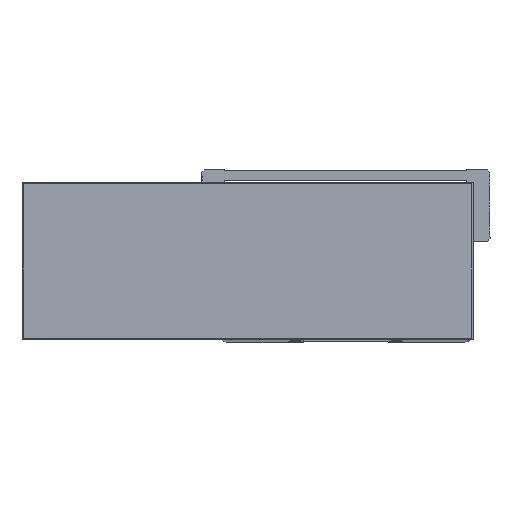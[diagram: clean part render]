
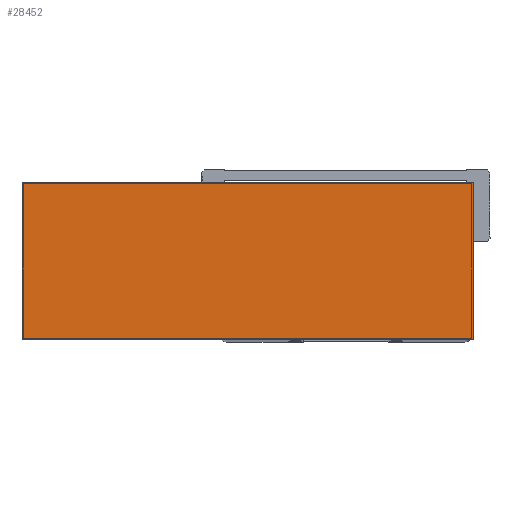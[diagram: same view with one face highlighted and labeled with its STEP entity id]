
A CAD part, top view. The second image highlights one B-rep face of the part: STEP entity #28452.
In plain terms, the highlighted planar face has unit normal (0, 0, 1).
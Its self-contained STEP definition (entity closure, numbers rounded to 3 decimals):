
#1952 = DIRECTION ( 'NONE',  ( 0., -1., 0. ) ) ;
#2237 = EDGE_CURVE ( 'NONE', #13440, #18291, #9259, .T. ) ;
#2614 = CARTESIAN_POINT ( 'NONE',  ( 0., 0., 70. ) ) ;
#3688 = CARTESIAN_POINT ( 'NONE',  ( 0., 0., 70. ) ) ;
#4399 = EDGE_CURVE ( 'NONE', #18291, #17542, #27156, .T. ) ;
#5814 = DIRECTION ( 'NONE',  ( -1., 0., 0. ) ) ;
#7184 = DIRECTION ( 'NONE',  ( -1., 0., 0. ) ) ;
#7653 = CARTESIAN_POINT ( 'NONE',  ( 313., 0., 70. ) ) ;
#9259 = LINE ( 'NONE', #2614, #23818 ) ;
#10826 = EDGE_LOOP ( 'NONE', ( #28093, #31122, #35114, #35614 ) ) ;
#11878 = CARTESIAN_POINT ( 'NONE',  ( 0., 109., 70. ) ) ;
#13440 = VERTEX_POINT ( 'NONE', #13771 ) ;
#13771 = CARTESIAN_POINT ( 'NONE',  ( 0., 109., 70. ) ) ;
#16733 = VECTOR ( 'NONE', #5814, 1000. ) ;
#17542 = VERTEX_POINT ( 'NONE', #21647 ) ;
#18291 = VERTEX_POINT ( 'NONE', #3688 ) ;
#21491 = FACE_OUTER_BOUND ( 'NONE', #10826, .T. ) ;
#21647 = CARTESIAN_POINT ( 'NONE',  ( 313., 0., 70. ) ) ;
#23818 = VECTOR ( 'NONE', #1952, 1000. ) ;
#24056 = LINE ( 'NONE', #11878, #16733 ) ;
#24183 = LINE ( 'NONE', #7653, #32662 ) ;
#25180 = VECTOR ( 'NONE', #37649, 1000. ) ;
#25678 = PLANE ( 'NONE',  #36674 ) ;
#25805 = DIRECTION ( 'NONE',  ( 0., 0., -1. ) ) ;
#26032 = EDGE_CURVE ( 'NONE', #17542, #29567, #24183, .T. ) ;
#27156 = LINE ( 'NONE', #37272, #25180 ) ;
#28093 = ORIENTED_EDGE ( 'NONE', *, *, #2237, .T. ) ;
#28452 = ADVANCED_FACE ( 'NONE', ( #21491 ), #25678, .F. ) ;
#29567 = VERTEX_POINT ( 'NONE', #31645 ) ;
#31122 = ORIENTED_EDGE ( 'NONE', *, *, #4399, .T. ) ;
#31645 = CARTESIAN_POINT ( 'NONE',  ( 313., 109., 70. ) ) ;
#32662 = VECTOR ( 'NONE', #35632, 1000. ) ;
#35114 = ORIENTED_EDGE ( 'NONE', *, *, #26032, .T. ) ;
#35296 = CARTESIAN_POINT ( 'NONE',  ( 0., 0., 70. ) ) ;
#35614 = ORIENTED_EDGE ( 'NONE', *, *, #37843, .T. ) ;
#35632 = DIRECTION ( 'NONE',  ( 0., 1., 0. ) ) ;
#36674 = AXIS2_PLACEMENT_3D ( 'NONE', #35296, #25805, #7184 ) ;
#37272 = CARTESIAN_POINT ( 'NONE',  ( 0., 0., 70. ) ) ;
#37649 = DIRECTION ( 'NONE',  ( 1., 0., 0. ) ) ;
#37843 = EDGE_CURVE ( 'NONE', #29567, #13440, #24056, .T. ) ;
